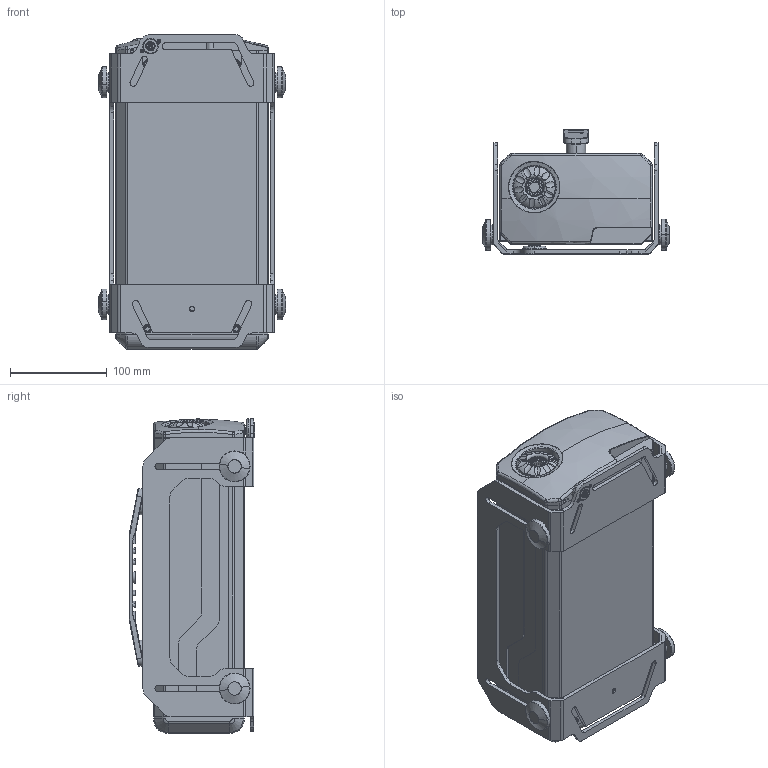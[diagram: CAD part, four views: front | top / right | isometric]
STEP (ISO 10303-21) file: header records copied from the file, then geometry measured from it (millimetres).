
FILE_DESCRIPTION (( 'STEP AP214' ), '1' );
FILE_NAME ('FROG.STEP', '2022-05-16T08:44:08', ( '' ), ( '' ), 'SwSTEP 2.0', 'SolidWorks 2020', '' );
FILE_SCHEMA (( 'AUTOMOTIVE_DESIGN' ));
Length unit declared in the file: millimetre
Products named in the file (1): FROG
Bounding box: 193.9 x 129.7 x 326 mm (x, y, z)
Surface area: 428646.6 mm2 (no closed solid volume)
Topology: 0 solids, 54 shells, 695 faces, 2626 edges, 1971 vertices
Faces by surface type: cylinder 283, plane 263, torus 75, bspline 42, cone 28, sphere 4
Entity records: 40711 total; most frequent: CARTESIAN_POINT 10397, DIRECTION 4959, ORIENTED_EDGE 4075, EDGE_CURVE 2626, VERTEX_POINT 1971, AXIS2_PLACEMENT_3D 1863, VECTOR 1233, LINE 1233
